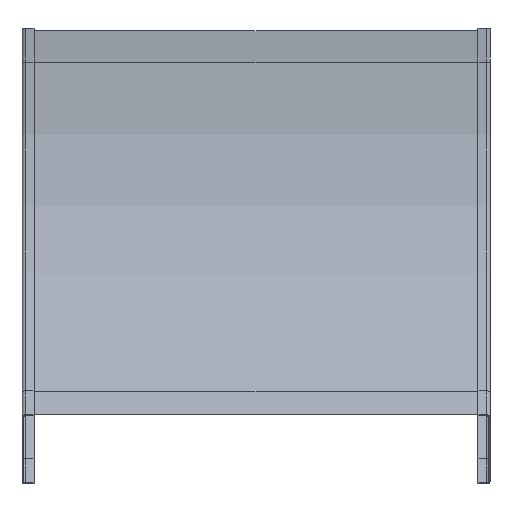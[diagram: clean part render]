
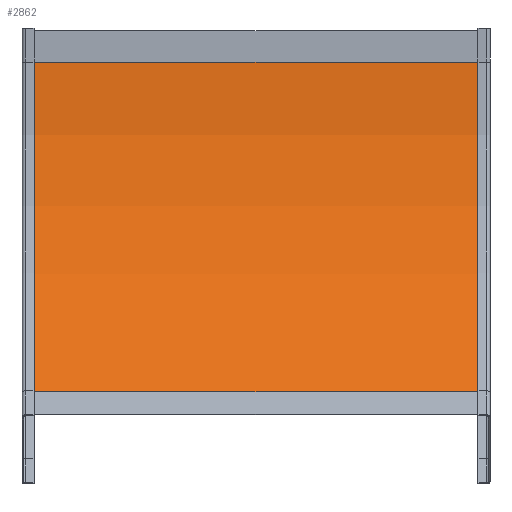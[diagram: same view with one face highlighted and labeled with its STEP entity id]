
A CAD part, front view. The second image highlights one B-rep face of the part: STEP entity #2862.
In plain terms, the highlighted cylindrical face has radius 611.632 mm (diameter 1223.26 mm), a partial arc.
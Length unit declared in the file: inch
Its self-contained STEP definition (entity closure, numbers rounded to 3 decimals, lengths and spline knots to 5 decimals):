
#2696=DIRECTION('',(-1.,0.,0.));
#2697=VECTOR('',#2696,23.875);
#2698=CARTESIAN_POINT('',(11.9375,0.,0.));
#2699=LINE('',#2698,#2697);
#2700=CARTESIAN_POINT('',(11.9375,24.08,0.));
#2701=DIRECTION('',(-1.,0.,0.));
#2702=DIRECTION('',(0.,-1.,0.));
#2703=AXIS2_PLACEMENT_3D('',#2700,#2701,#2702);
#2726=CARTESIAN_POINT('',(-11.9375,24.08,0.));
#2727=DIRECTION('',(-1.,0.,0.));
#2728=DIRECTION('',(0.,-1.,0.));
#2729=AXIS2_PLACEMENT_3D('',#2726,#2727,#2728);
#2752=DIRECTION('',(-1.,0.,0.));
#2753=VECTOR('',#2752,23.875);
#2754=CARTESIAN_POINT('',(11.9375,7.05287,17.02713));
#2755=LINE('',#2754,#2753);
#2800=CARTESIAN_POINT('',(11.9375,0.,0.));
#2802=VERTEX_POINT('',#2800);
#2806=CARTESIAN_POINT('',(-11.9375,0.,0.));
#2807=VERTEX_POINT('',#2806);
#2816=CARTESIAN_POINT('',(11.9375,7.05287,17.02713));
#2817=VERTEX_POINT('',#2816);
#2820=CARTESIAN_POINT('',(-11.9375,7.05287,17.02713));
#2821=VERTEX_POINT('',#2820);
#2848=CARTESIAN_POINT('',(11.9375,24.08,0.));
#2849=DIRECTION('',(-1.,0.,0.));
#2850=DIRECTION('',(0.,0.,1.));
#2851=AXIS2_PLACEMENT_3D('',#2848,#2849,#2850);
#2852=CYLINDRICAL_SURFACE('',#2851,24.08);
#2854=ORIENTED_EDGE('',*,*,#2853,.T.);
#2856=ORIENTED_EDGE('',*,*,#2855,.T.);
#2858=ORIENTED_EDGE('',*,*,#2857,.F.);
#2859=ORIENTED_EDGE('',*,*,#2837,.F.);
#2860=EDGE_LOOP('',(#2854,#2856,#2858,#2859));
#2861=FACE_OUTER_BOUND('',#2860,.F.);
#2862=ADVANCED_FACE('',(#2861),#2852,.F.);
#2704=CIRCLE('',#2703,24.08);
#2730=CIRCLE('',#2729,24.08);
#2837=EDGE_CURVE('',#2802,#2807,#2699,.T.);
#2853=EDGE_CURVE('',#2802,#2817,#2704,.T.);
#2855=EDGE_CURVE('',#2817,#2821,#2755,.T.);
#2857=EDGE_CURVE('',#2807,#2821,#2730,.T.);
